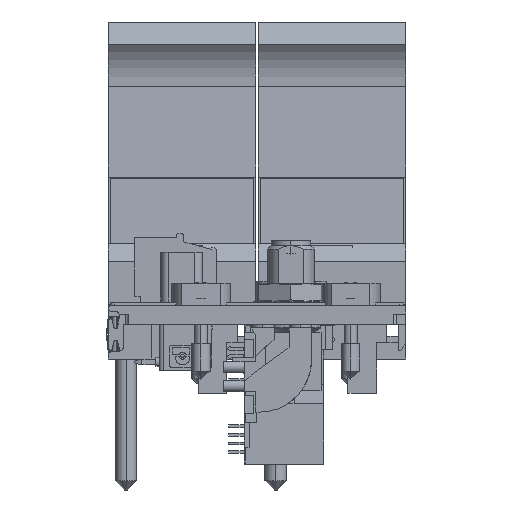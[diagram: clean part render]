
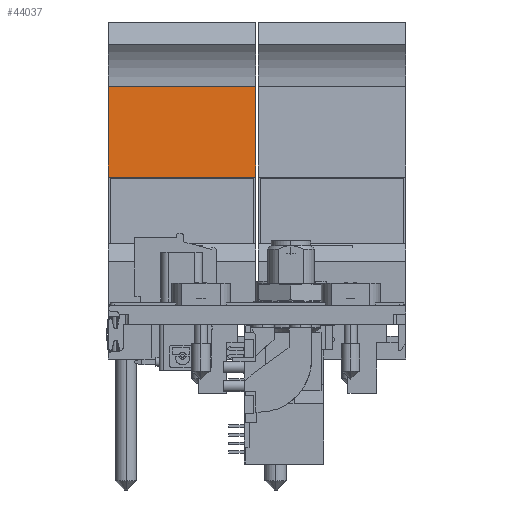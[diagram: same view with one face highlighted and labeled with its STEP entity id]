
A CAD part, left-side view. The second image highlights one B-rep face of the part: STEP entity #44037.
In plain terms, the highlighted planar face has unit normal (-0.998, 0, 0.065).
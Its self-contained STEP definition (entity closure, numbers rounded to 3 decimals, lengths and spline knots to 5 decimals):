
#12896=DIRECTION('',(0.065,0.,0.998));
#12897=VECTOR('',#12896,0.48638);
#12898=CARTESIAN_POINT('',(1.74912,0.725,3.9961));
#12899=LINE('',#12898,#12897);
#13244=DIRECTION('',(0.065,0.,0.998));
#13245=VECTOR('',#13244,0.48638);
#13246=CARTESIAN_POINT('',(1.74912,-0.063,3.9961));
#13247=LINE('',#13246,#13245);
#14106=DIRECTION('',(0.,-1.,0.));
#14107=VECTOR('',#14106,0.788);
#14108=CARTESIAN_POINT('',(1.7809,0.725,4.48144));
#14109=LINE('',#14108,#14107);
#14122=DIRECTION('',(0.,-1.,0.));
#14123=VECTOR('',#14122,0.788);
#14124=CARTESIAN_POINT('',(1.74912,0.725,3.9961));
#14125=LINE('',#14124,#14123);
#21017=CARTESIAN_POINT('',(1.7809,-0.063,4.48144));
#21018=VERTEX_POINT('',#21017);
#21019=CARTESIAN_POINT('',(1.74912,-0.063,3.9961));
#21020=VERTEX_POINT('',#21019);
#21135=CARTESIAN_POINT('',(1.7809,0.725,4.48144));
#21136=VERTEX_POINT('',#21135);
#21137=CARTESIAN_POINT('',(1.74912,0.725,3.9961));
#21138=VERTEX_POINT('',#21137);
#44025=CARTESIAN_POINT('',(1.76501,0.331,4.23877));
#44026=DIRECTION('',(0.998,0.,-0.065));
#44027=DIRECTION('',(-0.065,0.,-0.998));
#44028=AXIS2_PLACEMENT_3D('',#44025,#44026,#44027);
#44029=PLANE('',#44028);
#44031=ORIENTED_EDGE('',*,*,#44030,.F.);
#44032=ORIENTED_EDGE('',*,*,#42345,.T.);
#44033=ORIENTED_EDGE('',*,*,#44018,.T.);
#44034=ORIENTED_EDGE('',*,*,#42747,.F.);
#44035=EDGE_LOOP('',(#44031,#44032,#44033,#44034));
#44036=FACE_OUTER_BOUND('',#44035,.F.);
#44037=ADVANCED_FACE('',(#44036),#44029,.F.);
#42345=EDGE_CURVE('',#21138,#21136,#12899,.T.);
#42747=EDGE_CURVE('',#21020,#21018,#13247,.T.);
#44018=EDGE_CURVE('',#21136,#21018,#14109,.T.);
#44030=EDGE_CURVE('',#21138,#21020,#14125,.T.);
